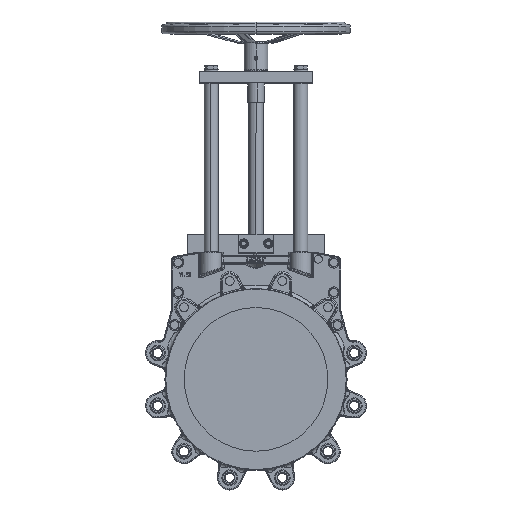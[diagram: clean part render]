
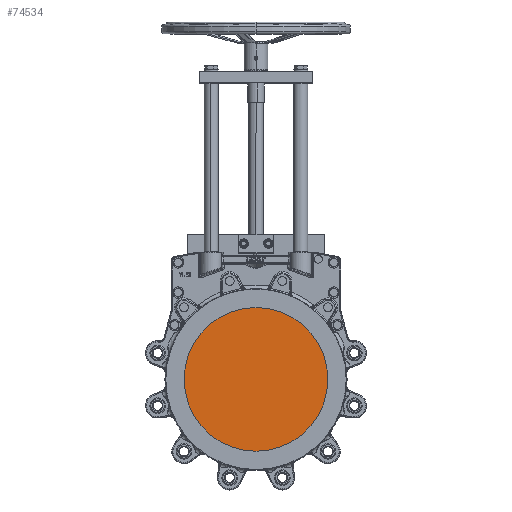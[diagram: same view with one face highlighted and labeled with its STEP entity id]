
A CAD part, top view. The second image highlights one B-rep face of the part: STEP entity #74534.
In plain terms, the highlighted planar face has unit normal (0, 0, 1).
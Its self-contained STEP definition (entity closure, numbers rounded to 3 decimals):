
#14120 = DIRECTION ( 'NONE',  ( 0., 0., 1. ) ) ;
#20088 = EDGE_CURVE ( 'NONE', #134459, #36790, #112818, .T. ) ;
#31020 = DIRECTION ( 'NONE',  ( 0., 0., 1. ) ) ;
#36790 = VERTEX_POINT ( 'NONE', #101851 ) ;
#40405 = PLANE ( 'NONE',  #99368 ) ;
#45707 = CARTESIAN_POINT ( 'NONE',  ( 152.4, 0., -0.25 ) ) ;
#51488 = AXIS2_PLACEMENT_3D ( 'NONE', #118271, #14120, #54618 ) ;
#54618 = DIRECTION ( 'NONE',  ( -1., 0., 0. ) ) ;
#59660 = EDGE_CURVE ( 'NONE', #36790, #134459, #83828, .T. ) ;
#67771 = ORIENTED_EDGE ( 'NONE', *, *, #20088, .T. ) ;
#74534 = ADVANCED_FACE ( 'NONE', ( #81461 ), #40405, .F. ) ;
#81276 = ORIENTED_EDGE ( 'NONE', *, *, #59660, .T. ) ;
#81461 = FACE_OUTER_BOUND ( 'NONE', #134573, .T. ) ;
#83828 = CIRCLE ( 'NONE', #101305, 152.4 ) ;
#89715 = DIRECTION ( 'NONE',  ( -1., 0., 0. ) ) ;
#93277 = DIRECTION ( 'NONE',  ( -1., 0., 0. ) ) ;
#99368 = AXIS2_PLACEMENT_3D ( 'NONE', #101291, #100624, #89715 ) ;
#100624 = DIRECTION ( 'NONE',  ( 0., 0., -1. ) ) ;
#101291 = CARTESIAN_POINT ( 'NONE',  ( 0., 110., -0.25 ) ) ;
#101305 = AXIS2_PLACEMENT_3D ( 'NONE', #103577, #31020, #93277 ) ;
#101851 = CARTESIAN_POINT ( 'NONE',  ( -152.4, 0., -0.25 ) ) ;
#103577 = CARTESIAN_POINT ( 'NONE',  ( 0., 0., -0.25 ) ) ;
#112818 = CIRCLE ( 'NONE', #51488, 152.4 ) ;
#118271 = CARTESIAN_POINT ( 'NONE',  ( 0., 0., -0.25 ) ) ;
#134459 = VERTEX_POINT ( 'NONE', #45707 ) ;
#134573 = EDGE_LOOP ( 'NONE', ( #81276, #67771 ) ) ;
